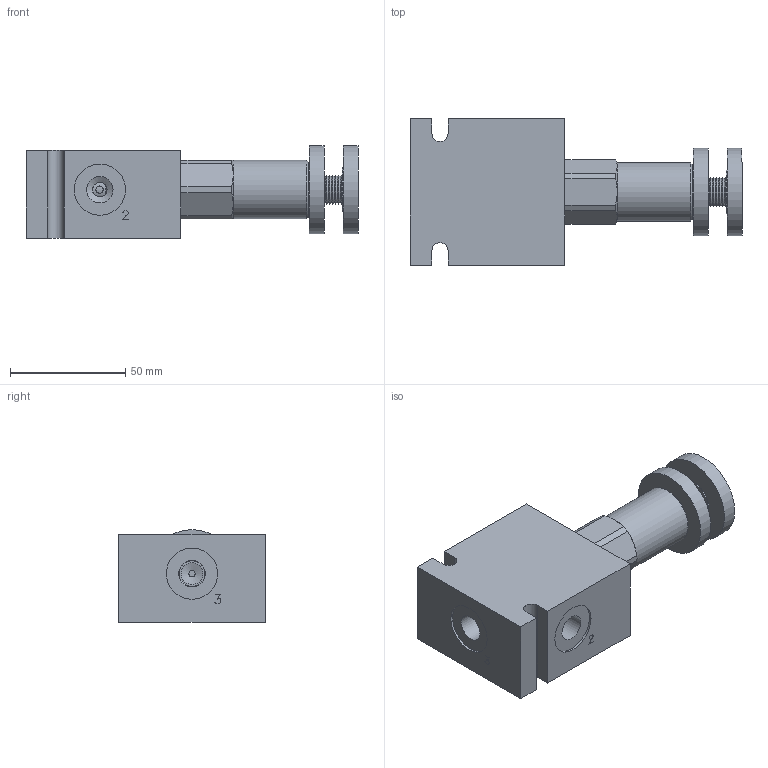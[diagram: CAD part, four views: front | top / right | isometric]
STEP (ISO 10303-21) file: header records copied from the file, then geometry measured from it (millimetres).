
FILE_DESCRIPTION( ( 'Unknown' ), '1' );
FILE_NAME( 'G:/Graphic Design/Graphic Design 2/Data Sheets/FLOW CONTROLS/2_STEP/Priority Flow Regulator Valves/D-DFFCQ0K-A3.stp', 'Unknown', ( 'Unknown' ), ( 'Unknown' ), 'PSStep 16.0.42', 'Unknown', ' ' );
FILE_SCHEMA( ( 'AUTOMOTIVE_DESIGN { 1 0 10303 214 1 1 1 1 }' ) );
Length unit declared in the file: millimetre
Products named in the file (11): DFFCQ0K; DFFCQ0K-3D Full1; DFFCQ0K-3D Full2; DFFCQ0K-3D Full3; DFFCQ0K-3D Full4; DFFCQ0K-3D Full5; DFFCQ0K-3D Full6; DFFCQ0K-3D Full7; DFFCQ0K-3D Full8; Assem1; B-DDFA3
Assembly tree (10 placements, depth 3):
  Assem1
    B-DDFA3
    DFFCQ0K
      DFFCQ0K-3D Full1
      DFFCQ0K-3D Full2
      DFFCQ0K-3D Full3
      DFFCQ0K-3D Full4
      DFFCQ0K-3D Full5
      DFFCQ0K-3D Full6
      DFFCQ0K-3D Full7
      DFFCQ0K-3D Full8
Bounding box: 143.92 x 63.5 x 40.15 mm (x, y, z)
Surface area: 42231.1 mm2 (no closed solid volume)
Topology: 0 solids, 296 shells, 296 faces, 1205 edges, 1076 vertices
Faces by surface type: plane 135, cone 84, cylinder 70, torus 7
Full cylindrical faces by diameter (mm): 0.2 x3, 2.739 x1, 3.175 x12, 6.3 x1, 11 x1, 11.11 x1, 11.5 x5, 12.7 x2, 12.992 x1, 13.043 x1, 14 x1, 14.224 x1, 14.592 x1, 14.643 x1, 15.735 x1, 15.748 x1, 15.773 x2, 15.875 x1, 15.926 x1, 17.323 x1, 17.335 x1, 17.374 x2, 17.526 x1, 17.527 x1, 19.05 x2, 19.622 x1, 20.262 x2, 22.22 x3, 25.4 x1, 30.175 x1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
Entity records: 16206 total; most frequent: CARTESIAN_POINT 5553, DIRECTION 1596, VERTEX_POINT 1051, ORIENTED_EDGE 1048, EDGE_CURVE 1048, AXIS2_PLACEMENT_3D 682, FACE_BOUND 463, EDGE_LOOP 460
